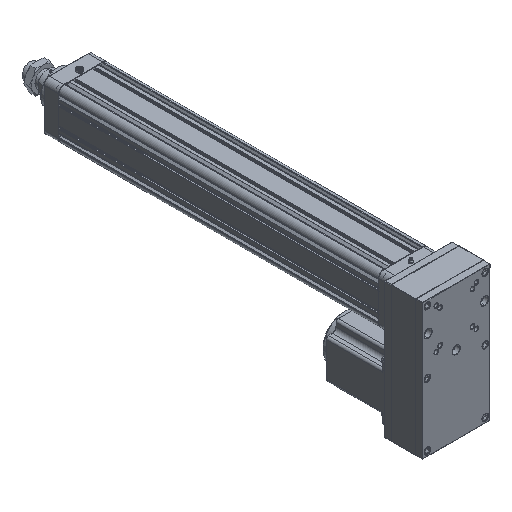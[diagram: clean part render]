
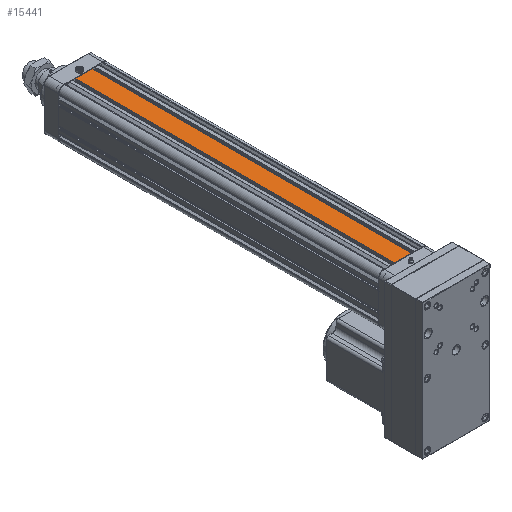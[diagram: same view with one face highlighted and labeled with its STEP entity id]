
A CAD part, isometric view. The second image highlights one B-rep face of the part: STEP entity #15441.
In plain terms, the highlighted planar face has unit normal (0, 0, 1).
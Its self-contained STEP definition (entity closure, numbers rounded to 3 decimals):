
#7022=DIRECTION('',(1.,0.,0.));
#7023=VECTOR('',#7022,38.4);
#7024=CARTESIAN_POINT('',(-19.2,353.5,55.));
#7025=LINE('',#7024,#7023);
#7026=DIRECTION('',(0.,1.,0.));
#7027=VECTOR('',#7026,707.);
#7028=CARTESIAN_POINT('',(19.2,-353.5,55.));
#7029=LINE('',#7028,#7027);
#7030=DIRECTION('',(-1.,0.,0.));
#7031=VECTOR('',#7030,38.4);
#7032=CARTESIAN_POINT('',(19.2,-353.5,55.));
#7033=LINE('',#7032,#7031);
#7034=DIRECTION('',(0.,-1.,0.));
#7035=VECTOR('',#7034,707.);
#7036=CARTESIAN_POINT('',(-19.2,353.5,55.));
#7037=LINE('',#7036,#7035);
#7219=CARTESIAN_POINT('',(19.2,353.5,55.));
#9623=VERTEX_POINT('',#7219);
#9624=CARTESIAN_POINT('',(-19.2,353.5,55.));
#9625=VERTEX_POINT('',#9624);
#9873=CARTESIAN_POINT('',(19.2,-353.5,55.));
#9874=CARTESIAN_POINT('',(-19.2,-353.5,55.));
#9875=VERTEX_POINT('',#9873);
#9876=VERTEX_POINT('',#9874);
#15426=CARTESIAN_POINT('',(-55.,-354.,55.));
#15427=DIRECTION('',(0.,0.,1.));
#15428=DIRECTION('',(1.,0.,0.));
#15429=AXIS2_PLACEMENT_3D('',#15426,#15427,#15428);
#15430=PLANE('',#15429);
#15432=ORIENTED_EDGE('',*,*,#15431,.T.);
#15434=ORIENTED_EDGE('',*,*,#15433,.F.);
#15436=ORIENTED_EDGE('',*,*,#15435,.T.);
#15438=ORIENTED_EDGE('',*,*,#15437,.F.);
#15439=EDGE_LOOP('',(#15432,#15434,#15436,#15438));
#15440=FACE_OUTER_BOUND('',#15439,.F.);
#15441=ADVANCED_FACE('',(#15440),#15430,.T.);
#15431=EDGE_CURVE('',#9625,#9623,#7025,.T.);
#15433=EDGE_CURVE('',#9875,#9623,#7029,.T.);
#15435=EDGE_CURVE('',#9875,#9876,#7033,.T.);
#15437=EDGE_CURVE('',#9625,#9876,#7037,.T.);
